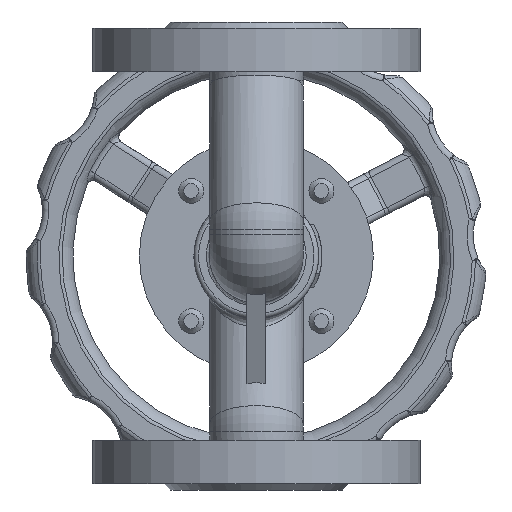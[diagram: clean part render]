
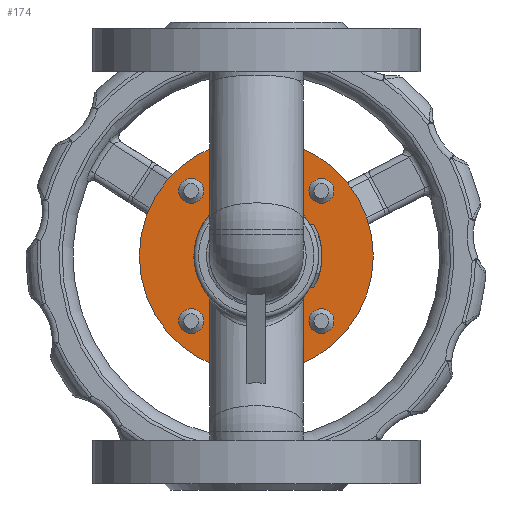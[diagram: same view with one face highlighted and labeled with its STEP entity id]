
A CAD part, front view. The second image highlights one B-rep face of the part: STEP entity #174.
In plain terms, the highlighted planar face has unit normal (0, -1, 0).
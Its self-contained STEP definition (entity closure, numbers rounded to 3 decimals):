
#174=ADVANCED_FACE('',(#8768,#8770,#8772,#8774,#8776,#8778),#8780,.T.);
#8768=FACE_BOUND('',#8769,.T.);
#8769=EDGE_LOOP('',(#18555));
#8770=FACE_BOUND('',#8771,.T.);
#8771=EDGE_LOOP('',(#18556));
#8772=FACE_BOUND('',#8773,.T.);
#8773=EDGE_LOOP('',(#18557));
#8774=FACE_BOUND('',#8775,.T.);
#8775=EDGE_LOOP('',(#18558));
#8776=FACE_BOUND('',#8777,.T.);
#8777=EDGE_LOOP('',(#18559));
#8778=FACE_BOUND('',#8779,.T.);
#8779=EDGE_LOOP('',(#18560));
#8780=PLANE('',#8781);
#8781=AXIS2_PLACEMENT_3D('',#8782,#8783,#8784);
#8782=CARTESIAN_POINT('',(0.,46.5,0.));
#8783=DIRECTION('',(0.,-1.,0.));
#8784=DIRECTION('',(0.,0.,1.));
#18555=ORIENTED_EDGE('',*,*,#23378,.F.);
#18556=ORIENTED_EDGE('',*,*,#23379,.T.);
#18557=ORIENTED_EDGE('',*,*,#23380,.T.);
#18558=ORIENTED_EDGE('',*,*,#23381,.T.);
#18559=ORIENTED_EDGE('',*,*,#23357,.T.);
#18560=ORIENTED_EDGE('',*,*,#23382,.T.);
#23357=EDGE_CURVE('',#25574,#25574,#25575,.T.);
#23378=EDGE_CURVE('',#25616,#25616,#25617,.T.);
#23379=EDGE_CURVE('',#25618,#25618,#25619,.T.);
#23380=EDGE_CURVE('',#25620,#25620,#25621,.T.);
#23381=EDGE_CURVE('',#25622,#25622,#25623,.T.);
#23382=EDGE_CURVE('',#25624,#25624,#25625,.T.);
#25574=VERTEX_POINT('',#29174);
#25575=CIRCLE('',#29175,4.);
#25616=VERTEX_POINT('',#29273);
#25617=CIRCLE('',#29274,37.5);
#25618=VERTEX_POINT('',#29278);
#25619=CIRCLE('',#29279,19.);
#25620=VERTEX_POINT('',#29283);
#25621=CIRCLE('',#29284,4.);
#25622=VERTEX_POINT('',#29288);
#25623=CIRCLE('',#29289,4.);
#25624=VERTEX_POINT('',#29293);
#25625=CIRCLE('',#29294,4.);
#29174=CARTESIAN_POINT('',(20.86,46.5,-16.86));
#29175=AXIS2_PLACEMENT_3D('',#29176,#29177,#29178);
#29176=CARTESIAN_POINT('',(20.86,46.5,-20.86));
#29177=DIRECTION('',(0.,1.,0.));
#29178=DIRECTION('',(0.,0.,1.));
#29273=CARTESIAN_POINT('',(0.,46.5,37.5));
#29274=AXIS2_PLACEMENT_3D('',#29275,#29276,#29277);
#29275=CARTESIAN_POINT('',(0.,46.5,0.));
#29276=DIRECTION('',(0.,1.,0.));
#29277=DIRECTION('',(0.,0.,1.));
#29278=CARTESIAN_POINT('',(0.,46.5,19.));
#29279=AXIS2_PLACEMENT_3D('',#29280,#29281,#29282);
#29280=CARTESIAN_POINT('',(0.,46.5,0.));
#29281=DIRECTION('',(0.,1.,0.));
#29282=DIRECTION('',(0.,0.,1.));
#29283=CARTESIAN_POINT('',(-20.86,46.5,16.86));
#29284=AXIS2_PLACEMENT_3D('',#29285,#29286,#29287);
#29285=CARTESIAN_POINT('',(-20.86,46.5,20.86));
#29286=DIRECTION('',(0.,1.,0.));
#29287=DIRECTION('',(0.,0.,-1.));
#29288=CARTESIAN_POINT('',(-16.86,46.5,-20.86));
#29289=AXIS2_PLACEMENT_3D('',#29290,#29291,#29292);
#29290=CARTESIAN_POINT('',(-20.86,46.5,-20.86));
#29291=DIRECTION('',(0.,1.,0.));
#29292=DIRECTION('',(1.,0.,0.));
#29293=CARTESIAN_POINT('',(16.86,46.5,20.86));
#29294=AXIS2_PLACEMENT_3D('',#29295,#29296,#29297);
#29295=CARTESIAN_POINT('',(20.86,46.5,20.86));
#29296=DIRECTION('',(0.,1.,0.));
#29297=DIRECTION('',(-1.,0.,0.));
